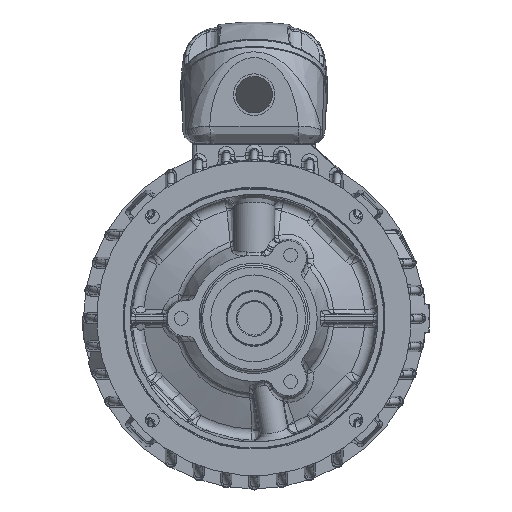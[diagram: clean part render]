
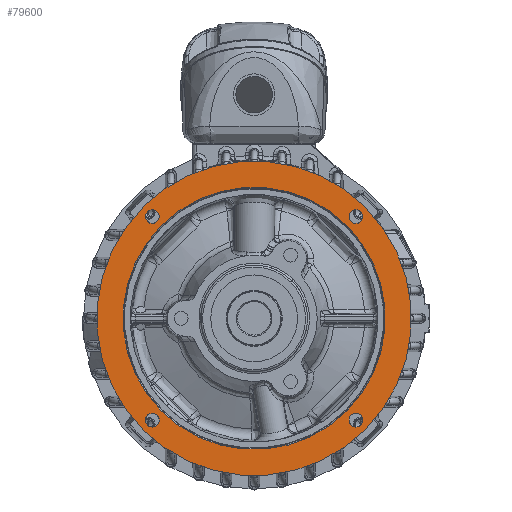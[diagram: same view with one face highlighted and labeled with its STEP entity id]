
A CAD part, front view. The second image highlights one B-rep face of the part: STEP entity #79600.
In plain terms, the highlighted planar face has unit normal (0, -1, 0) as drawn and (0, 0, -1) by its records, which use the part's own axes.
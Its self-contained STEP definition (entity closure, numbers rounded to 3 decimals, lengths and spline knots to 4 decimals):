
#69126=CARTESIAN_POINT('',(0.,0.,-3.763));
#69127=DIRECTION('',(0.,0.,-1.));
#69128=DIRECTION('',(-0.707,0.707,0.));
#69129=AXIS2_PLACEMENT_3D('',#69126,#69127,#69128);
#69131=CARTESIAN_POINT('',(0.,0.,-3.763));
#69132=DIRECTION('',(0.,0.,1.));
#69133=DIRECTION('',(-0.707,0.707,0.));
#69134=AXIS2_PLACEMENT_3D('',#69131,#69132,#69133);
#69136=CARTESIAN_POINT('',(-3.2262,3.2262,-3.763));
#69137=DIRECTION('',(0.,0.,1.));
#69138=DIRECTION('',(1.,0.,0.));
#69139=AXIS2_PLACEMENT_3D('',#69136,#69137,#69138);
#69141=CARTESIAN_POINT('',(-3.2262,3.2262,-3.763));
#69142=DIRECTION('',(0.,0.,1.));
#69143=DIRECTION('',(-1.,0.,0.));
#69144=AXIS2_PLACEMENT_3D('',#69141,#69142,#69143);
#69146=CARTESIAN_POINT('',(-3.2262,-3.2262,-3.763));
#69147=DIRECTION('',(0.,0.,1.));
#69148=DIRECTION('',(1.,0.,0.));
#69149=AXIS2_PLACEMENT_3D('',#69146,#69147,#69148);
#69151=CARTESIAN_POINT('',(-3.2262,-3.2262,-3.763));
#69152=DIRECTION('',(0.,0.,1.));
#69153=DIRECTION('',(-1.,0.,0.));
#69154=AXIS2_PLACEMENT_3D('',#69151,#69152,#69153);
#69156=CARTESIAN_POINT('',(3.2262,-3.2262,-3.763));
#69157=DIRECTION('',(0.,0.,1.));
#69158=DIRECTION('',(1.,0.,0.));
#69159=AXIS2_PLACEMENT_3D('',#69156,#69157,#69158);
#69161=CARTESIAN_POINT('',(3.2262,-3.2262,-3.763));
#69162=DIRECTION('',(0.,0.,1.));
#69163=DIRECTION('',(-1.,0.,0.));
#69164=AXIS2_PLACEMENT_3D('',#69161,#69162,#69163);
#69166=CARTESIAN_POINT('',(3.2262,3.2262,-3.763));
#69167=DIRECTION('',(0.,0.,1.));
#69168=DIRECTION('',(1.,0.,0.));
#69169=AXIS2_PLACEMENT_3D('',#69166,#69167,#69168);
#69171=CARTESIAN_POINT('',(3.2262,3.2262,-3.763));
#69172=DIRECTION('',(0.,0.,1.));
#69173=DIRECTION('',(-1.,0.,0.));
#69174=AXIS2_PLACEMENT_3D('',#69171,#69172,#69173);
#69176=CARTESIAN_POINT('',(0.,0.,-3.763));
#69177=DIRECTION('',(0.,0.,1.));
#69178=DIRECTION('',(-0.707,0.707,0.));
#69179=AXIS2_PLACEMENT_3D('',#69176,#69177,#69178);
#69189=CARTESIAN_POINT('',(0.,0.,-3.763));
#69190=DIRECTION('',(0.,0.,-1.));
#69191=DIRECTION('',(-0.707,0.707,0.));
#69192=AXIS2_PLACEMENT_3D('',#69189,#69190,#69191);
#76600=CARTESIAN_POINT('',(-3.5249,3.5249,-3.763));
#76601=CARTESIAN_POINT('',(3.5249,-3.5249,-3.763));
#76602=VERTEX_POINT('',#76600);
#76603=VERTEX_POINT('',#76601);
#76632=CARTESIAN_POINT('',(-2.9387,2.9387,-3.763));
#76633=VERTEX_POINT('',#76632);
#76636=CARTESIAN_POINT('',(2.9387,-2.9387,-3.763));
#76637=VERTEX_POINT('',#76636);
#76644=CARTESIAN_POINT('',(-3.0072,3.2262,-3.763));
#76645=CARTESIAN_POINT('',(-3.4452,3.2262,-3.763));
#76646=VERTEX_POINT('',#76644);
#76647=VERTEX_POINT('',#76645);
#76650=CARTESIAN_POINT('',(-3.0072,-3.2262,-3.763));
#76651=CARTESIAN_POINT('',(-3.4452,-3.2262,-3.763));
#76652=VERTEX_POINT('',#76650);
#76653=VERTEX_POINT('',#76651);
#76658=CARTESIAN_POINT('',(3.4452,-3.2262,-3.763));
#76659=CARTESIAN_POINT('',(3.0072,-3.2262,-3.763));
#76660=VERTEX_POINT('',#76658);
#76661=VERTEX_POINT('',#76659);
#76664=CARTESIAN_POINT('',(3.4452,3.2262,-3.763));
#76665=CARTESIAN_POINT('',(3.0072,3.2262,-3.763));
#76666=VERTEX_POINT('',#76664);
#76667=VERTEX_POINT('',#76665);
#79561=CARTESIAN_POINT('',(0.,0.,-3.763));
#79562=DIRECTION('',(0.,0.,1.));
#79563=DIRECTION('',(-0.707,0.707,0.));
#79564=AXIS2_PLACEMENT_3D('',#79561,#79562,#79563);
#79565=PLANE('',#79564);
#79567=ORIENTED_EDGE('',*,*,#79566,.F.);
#79569=ORIENTED_EDGE('',*,*,#79568,.T.);
#79570=EDGE_LOOP('',(#79567,#79569));
#79571=FACE_OUTER_BOUND('',#79570,.F.);
#79573=ORIENTED_EDGE('',*,*,#79572,.F.);
#79575=ORIENTED_EDGE('',*,*,#79574,.T.);
#79576=EDGE_LOOP('',(#79573,#79575));
#79577=FACE_BOUND('',#79576,.F.);
#79579=ORIENTED_EDGE('',*,*,#79578,.F.);
#79581=ORIENTED_EDGE('',*,*,#79580,.F.);
#79582=EDGE_LOOP('',(#79579,#79581));
#79583=FACE_BOUND('',#79582,.F.);
#79584=ORIENTED_EDGE('',*,*,#79541,.F.);
#79585=ORIENTED_EDGE('',*,*,#79555,.F.);
#79586=EDGE_LOOP('',(#79584,#79585));
#79587=FACE_BOUND('',#79586,.F.);
#79589=ORIENTED_EDGE('',*,*,#79588,.F.);
#79591=ORIENTED_EDGE('',*,*,#79590,.F.);
#79592=EDGE_LOOP('',(#79589,#79591));
#79593=FACE_BOUND('',#79592,.F.);
#79595=ORIENTED_EDGE('',*,*,#79594,.F.);
#79597=ORIENTED_EDGE('',*,*,#79596,.F.);
#79598=EDGE_LOOP('',(#79595,#79597));
#79599=FACE_BOUND('',#79598,.F.);
#79600=ADVANCED_FACE('',(#79571,#79577,#79583,#79587,#79593,#79599),#79565,.F.);
#69130=CIRCLE('',#69129,4.985);
#69135=CIRCLE('',#69134,4.985);
#69140=CIRCLE('',#69139,0.219);
#69145=CIRCLE('',#69144,0.219);
#69150=CIRCLE('',#69149,0.219);
#69155=CIRCLE('',#69154,0.219);
#69160=CIRCLE('',#69159,0.219);
#69165=CIRCLE('',#69164,0.219);
#69170=CIRCLE('',#69169,0.219);
#69175=CIRCLE('',#69174,0.219);
#69180=CIRCLE('',#69179,4.156);
#69193=CIRCLE('',#69192,4.156);
#79541=EDGE_CURVE('',#76652,#76653,#69150,.T.);
#79555=EDGE_CURVE('',#76653,#76652,#69155,.T.);
#79566=EDGE_CURVE('',#76602,#76603,#69130,.T.);
#79568=EDGE_CURVE('',#76602,#76603,#69135,.T.);
#79572=EDGE_CURVE('',#76633,#76637,#69180,.T.);
#79574=EDGE_CURVE('',#76633,#76637,#69193,.T.);
#79578=EDGE_CURVE('',#76646,#76647,#69140,.T.);
#79580=EDGE_CURVE('',#76647,#76646,#69145,.T.);
#79588=EDGE_CURVE('',#76660,#76661,#69160,.T.);
#79590=EDGE_CURVE('',#76661,#76660,#69165,.T.);
#79594=EDGE_CURVE('',#76666,#76667,#69170,.T.);
#79596=EDGE_CURVE('',#76667,#76666,#69175,.T.);
